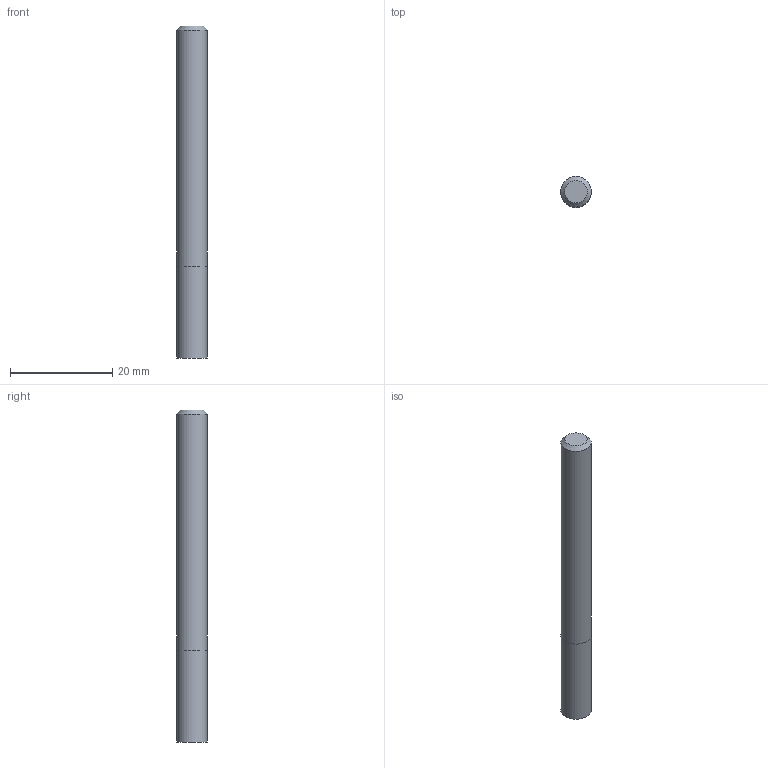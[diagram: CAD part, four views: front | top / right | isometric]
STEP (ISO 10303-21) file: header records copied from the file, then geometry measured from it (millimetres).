
FILE_DESCRIPTION((''),'2;1');
FILE_NAME('C:\Users\nsx150\AppData\Local\Temp\Mastercam 2021\Y59DX2IYLB\TEMP.step','2021-04-08T17:09:50',(''),(''),'STEP Write','Mastercam 2021 ... CNC Software, Inc.','');
FILE_SCHEMA(('AUTOMOTIVE_DESIGN'));
Length unit declared in the file: millimetre
Products named in the file (1): None
Bounding box: 6 x 6 x 65 mm (x, y, z)
Volume: 1832.3 mm3; surface area: 1328.7 mm2
Topology: 2 solids, 2 shells, 7 faces, 8 edges, 5 vertices
Faces by surface type: plane 4, cylinder 2, cone 1
Full cylindrical faces by diameter (mm): 6 x2
Entity records: 169 total; most frequent: DIRECTION 28, CARTESIAN_POINT 19, AXIS2_PLACEMENT_3D 14, ORIENTED_EDGE 10, EDGE_LOOP 10, STYLED_ITEM 10, ADVANCED_FACE 7, VERTEX_POINT 5
